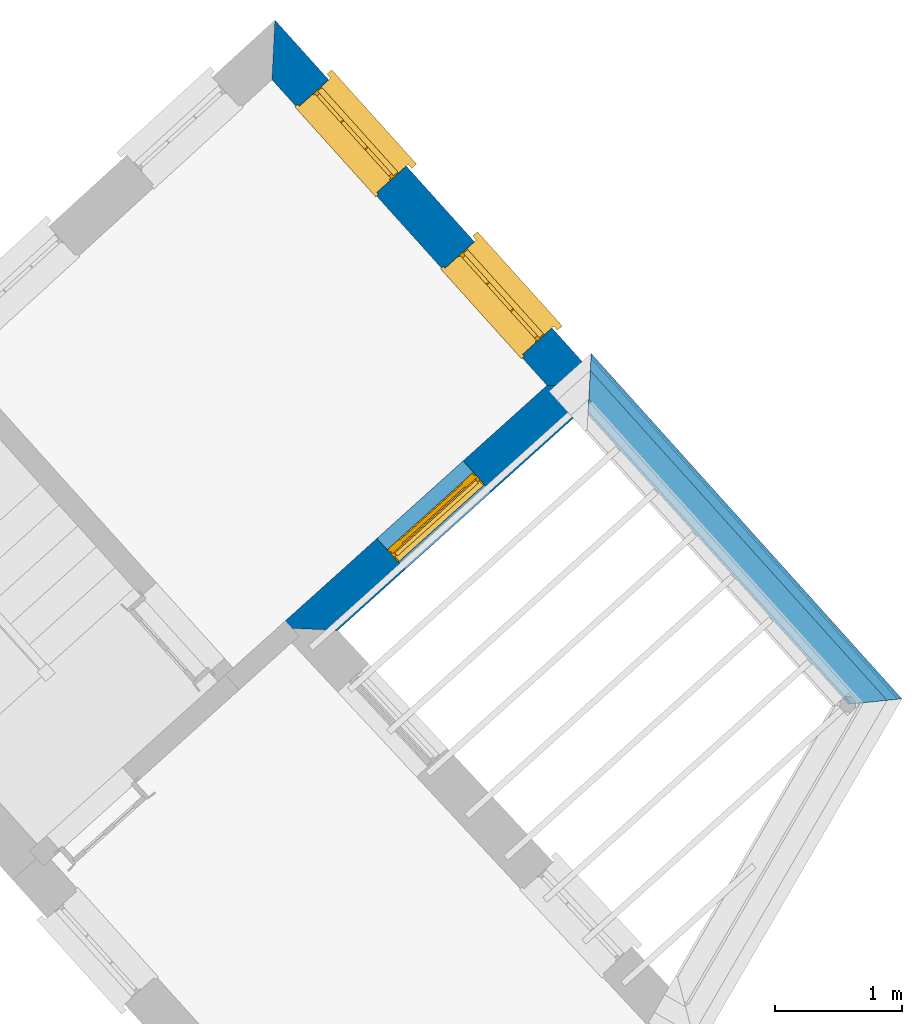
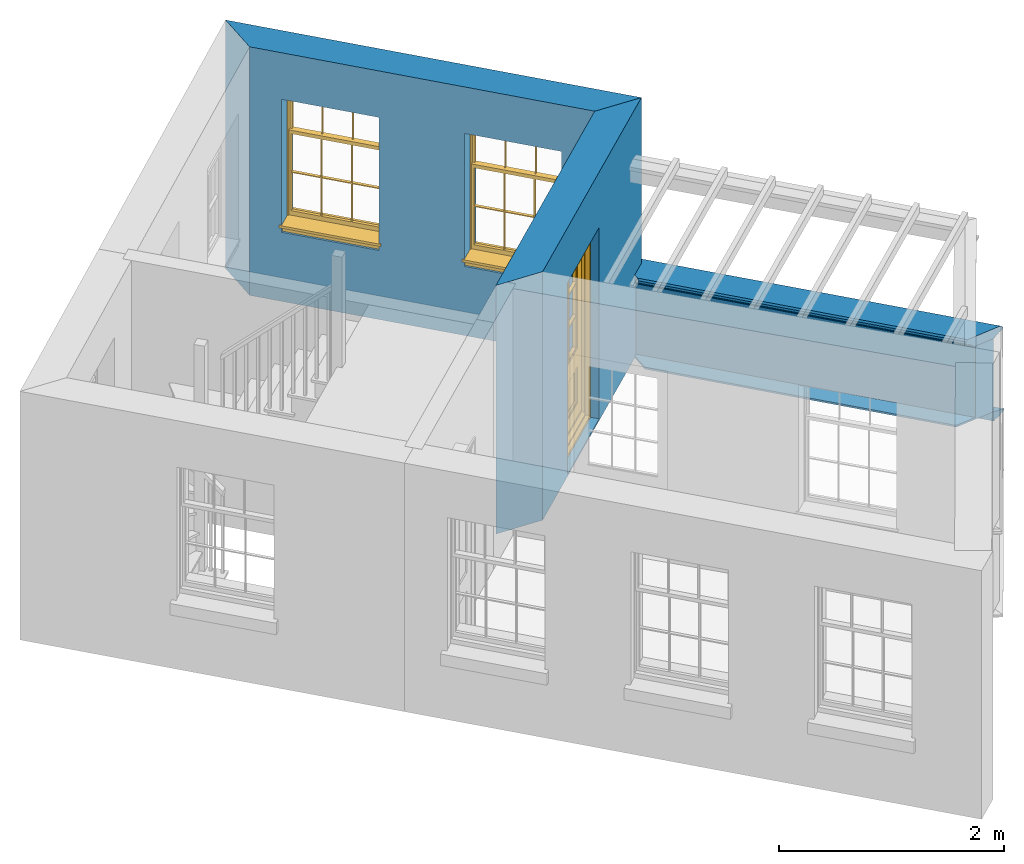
# One storey, part 5 of 7: 5 walls, 2 windows, 1 door, 3 openings.
"""IFC4 building model written with IfcOpenShell, lengths in metres."""

from ifc_helpers import new_model, si_unit, frame, origin, origin_with_axes, place, context, subcontext, project, spatial, polyline, outline, extrude, clip, halfspace, faceted_brep, source, transform, mapped, material, layer, layer_set, layer_usage, material_profile, profile_set, profile_usage, type_object, type_shapes, element, fill, save


model = new_model("IFC4")

# Units and contexts
model_context = context("Model", 3, world=origin_with_axes())
body_context = subcontext(model_context, "Body", "Model", "MODEL_VIEW")
ifc_project = project(units=[si_unit("PLANEANGLEUNIT", "RADIAN"), si_unit("MASSUNIT", "GRAM", prefix="KILO"), si_unit("FORCEUNIT", "NEWTON", prefix="KILO"), si_unit("LENGTHUNIT", "METRE"), si_unit("AREAUNIT", "SQUARE_METRE"), si_unit("VOLUMEUNIT", "CUBIC_METRE")], contexts=[model_context, model_context])

# Sites, building, storey
site_1_placement = place(None, origin_with_axes())
site_1 = spatial("IfcSite", under=ifc_project, at=site_1_placement, Name="Tamar")
site_2_placement = place(site_1_placement, origin_with_axes())
site_2 = spatial("IfcSite", under=site_1, at=site_2_placement, Name="Site plot-7", CompositionType="ELEMENT")
building_placement = place(None, origin_with_axes())
building = spatial("IfcBuilding", under=site_2, at=building_placement, Name="Building plot-7", CompositionType="ELEMENT")
storey_placement = place(None, frame((0.0, 0.0, 29.15), z_axis=(0.0, 0.0, 1.0), x_axis=(1.0, 0.0, 0.0)))
storey = spatial("IfcBuildingStorey", under=building, at=storey_placement, Name="plot-7 1", CompositionType="ELEMENT", Elevation=29.15)

# Wall, opening, door
ifc_material = material(Name="Masonry")
ifc_layer = layer(ifc_material, 0.33, ventilated=False)
ifc_layer_set = layer_set([ifc_layer], Name="exterior_0.08_0.25")
ifc_layer_usage = layer_usage(ifc_layer_set, "AXIS2", "POSITIVE", -0.25)
wall_type_1 = type_object("IfcWallType", Name="exterior_0.08_0.25", PredefinedType="SOLIDWALL", material=ifc_layer_set)
wall_1_placement = place(storey_placement, frame((243.7211711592, 286.45136074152, 0.0), z_axis=(0.0, 0.0, 1.0), x_axis=(0.743394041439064, 0.668853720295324, 0.0)))
wall_1 = element("IfcWall", 1, at=wall_1_placement, inside=storey, type_object=wall_type_1, material=ifc_layer_usage, Name="exterior", context=body_context, shape_type="SweptSolid", body=[
    extrude(outline(polyline([(-0.0813369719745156, 0.0800000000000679), (0.254178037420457, -0.250000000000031), (3.09300082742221, -0.250000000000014), (2.76300082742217, 0.0800000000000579), (-0.0813369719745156, 0.0800000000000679)])), origin_with_axes(), (0.0, 0.0, 1.0), 2.7),
])
opening_1_placement = place(wall_1_placement, frame((0.966500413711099, 0.0, 0.0199999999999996)))
opening_1 = element("IfcOpeningElement", 2, at=opening_1_placement, cuts=wall_1, Name="My Opening", ObjectType="Opening", context=body_context, shape_type="SweptSolid", body=[
    extrude(outline(polyline([(0.0, -0.270000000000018), (0.909999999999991, -0.270000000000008), (0.910000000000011, 1.1), (1.94289029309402e-14, 1.09999999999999), (0.0, -0.270000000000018)])), origin_with_axes(), (0.0, 0.0, 1.0), 2.08),
])
door_type = type_object("IfcDoorType", Name="door_panelled", OperationType="SINGLE_SWING_LEFT", PredefinedType="NOTDEFINED")
shared_shape_1 = source(origin(), body_context, "Body", "Brep", [
    faceted_brep([(0.545, 0.195, 0.265), (0.745, 0.195, 0.265), (0.745, 0.2, 0.265), (0.545, 0.2, 0.265), (0.745, 0.2, 0.58), (0.545, 0.2, 0.58), (0.545, 0.195, 0.58), (0.515, 0.19, 0.235), (0.775, 0.19, 0.235), (0.745, 0.195, 0.58), (0.515, 0.19, 0.61), (0.515, 0.185, 0.235), (0.775, 0.185, 0.235), (0.775, 0.19, 0.61), (0.515, 0.185, 0.61), (0.785, 0.185, 0.225), (0.505, 0.185, 0.225), (0.775, 0.185, 0.61), (0.505, 0.185, 0.62), (0.785, 0.185, 0.62), (0.505, 0.18, 0.225), (0.785, 0.18, 0.225), (0.505, 0.18, 0.62), (0.785, 0.18, 0.62), (0.883, 0.18, 0.075), (0.898, 0.18, 0.075), (0.405, 0.18, 0.62), (0.405, 0.18, 0.225), (0.027, 0.18, 0.075), (0.785, 0.18, 0.82), (0.125, 0.18, 0.82), (0.405, 0.185, 0.62), (0.405, 0.185, 0.225), (0.898, 0.18, 2.068), (0.027, 0.17, 0.075), (0.883, 0.17, 0.075), (0.125, 0.18, 0.225), (0.012, 0.18, 0.075), (0.785, 0.19, 0.82), (0.125, 0.19, 0.82), (0.125, 0.18, 0.62), (0.125, 0.185, 0.62), (0.395, 0.185, 0.61), (0.395, 0.185, 0.235), (0.125, 0.185, 0.225), (0.785, 0.18, 1.895), (0.027, 0.14, 0.045), (0.883, 0.14, 0.045), (0.558333, 0.19, 0.83), (0.351667, 0.19, 0.83), (0.125, 0.18, 1.895), (0.125, 0.19, 1.895), (0.785, 0.19, 1.895), (0.012, 0.18, 2.068), (0.135, 0.185, 0.61), (0.395, 0.19, 0.61), (0.395, 0.19, 0.235), (0.135, 0.185, 0.235), (0.027, 0.14, 0.027), (0.883, 0.14, 0.027), (0.568333, 0.19, 0.83), (0.558333, 0.22, 0.83), (0.351667, 0.22, 0.83), (0.341667, 0.19, 0.83), (0.135, 0.19, 1.185), (0.135, 0.19, 1.53), (0.775, 0.19, 1.53), (0.775, 0.19, 1.185), (0.135, 0.19, 0.61), (0.365, 0.195, 0.58), (0.365, 0.195, 0.265), (0.135, 0.19, 0.235), (0.568333, 0.19, 1.175), (0.558333, 0.19, 1.175), (0.775, 0.19, 0.83), (0.558333, 0.22, 1.175), (0.785, 0.22, 0.82), (0.125, 0.22, 0.82), (0.351667, 0.22, 1.175), (0.351667, 0.19, 1.175), (0.341667, 0.19, 1.175), (0.135, 0.19, 0.83), (0.135, 0.19, 1.175), (0.135, 0.22, 1.185), (0.135, 0.22, 1.53), (0.135, 0.19, 1.54), (0.351667, 0.19, 1.885), (0.558333, 0.19, 1.885), (0.775, 0.22, 1.53), (0.775, 0.22, 1.185), (0.775, 0.19, 1.175), (0.775, 0.19, 1.54), (0.165, 0.195, 0.58), (0.365, 0.2, 0.58), (0.365, 0.2, 0.265), (0.165, 0.195, 0.265), (0.568333, 0.22, 0.83), (0.568333, 0.22, 1.175), (0.568333, 0.19, 1.185), (0.558333, 0.19, 1.185), (0.775, 0.22, 0.83), (0.785, 0.23, 0.82), (0.125, 0.23, 0.82), (0.341667, 0.22, 0.83), (0.341667, 0.22, 1.175), (0.351667, 0.19, 1.185), (0.341667, 0.19, 1.185), (0.135, 0.22, 0.83), (0.341667, 0.22, 1.185), (0.125, 0.22, 1.895), (0.341667, 0.22, 1.53), (0.341667, 0.19, 1.53), (0.135, 0.19, 1.885), (0.341667, 0.19, 1.54), (0.341667, 0.19, 1.885), (0.558333, 0.22, 1.885), (0.351667, 0.22, 1.885), (0.568333, 0.19, 1.885), (0.785, 0.22, 1.895), (0.568333, 0.22, 1.185), (0.568333, 0.19, 1.53), (0.568333, 0.22, 1.53), (0.568333, 0.19, 1.54), (0.775, 0.19, 1.885), (0.165, 0.2, 0.58), (0.165, 0.2, 0.265), (0.775, 0.22, 1.175), (0.558333, 0.19, 1.53), (0.351667, 0.22, 1.185), (0.558333, 0.22, 1.185), (0.505, 0.23, 0.62), (0.405, 0.23, 0.62), (0.125, 0.23, 1.895), (0.785, 0.23, 1.895), (0.351667, 0.19, 1.53), (0.135, 0.22, 1.175), (0.135, 0.22, 1.54), (0.341667, 0.22, 1.54), (0.135, 0.22, 1.885), (0.351667, 0.19, 1.54), (0.558333, 0.22, 1.54), (0.558333, 0.19, 1.54), (0.351667, 0.22, 1.54), (0.775, 0.22, 1.54), (0.568333, 0.22, 1.54), (0.775, 0.22, 1.885), (0.558333, 0.22, 1.53), (0.405, 0.23, 0.225), (0.505, 0.23, 0.225), (0.125, 0.23, 0.62), (0.785, 0.23, 0.62), (0.012, 0.23, 2.068), (0.898, 0.23, 2.068), (0.351667, 0.22, 1.53), (0.341667, 0.22, 1.885), (0.568333, 0.22, 1.885), (0.405, 0.225, 0.225), (0.405, 0.225, 0.62), (0.505, 0.225, 0.62), (0.505, 0.225, 0.225), (0.898, 0.23, 0.027), (0.012, 0.23, 0.027), (0.125, 0.225, 0.62), (0.785, 0.225, 0.62), (0.395, 0.225, 0.235), (0.395, 0.225, 0.61), (0.125, 0.23, 0.225), (0.125, 0.225, 0.225), (0.515, 0.225, 0.61), (0.515, 0.225, 0.235), (0.785, 0.23, 0.225), (0.785, 0.225, 0.225), (0.135, 0.225, 0.61), (0.775, 0.225, 0.61), (0.135, 0.225, 0.235), (0.395, 0.22, 0.235), (0.395, 0.22, 0.61), (0.515, 0.22, 0.61), (0.515, 0.22, 0.235), (0.775, 0.225, 0.235), (0.135, 0.22, 0.61), (0.775, 0.22, 0.61), (0.135, 0.22, 0.235), (0.365, 0.215, 0.265), (0.365, 0.215, 0.58), (0.545, 0.215, 0.58), (0.545, 0.215, 0.265), (0.775, 0.22, 0.235), (0.165, 0.215, 0.58), (0.745, 0.215, 0.58), (0.165, 0.215, 0.265), (0.365, 0.21, 0.58), (0.365, 0.21, 0.265), (0.545, 0.21, 0.58), (0.545, 0.21, 0.265), (0.745, 0.215, 0.265), (0.165, 0.21, 0.58), (0.745, 0.21, 0.58), (0.165, 0.21, 0.265), (0.745, 0.21, 0.265), (0.885, 0.178, 0.025), (0.025, 0.178, 0.025), (0.025, 0.15, 0.025), (0.885, 0.15, 0.025), (0.9, 0.23, 0.025), (0.01, 0.23, 0.025), (0.9, 0.178, 0.025), (0.91, 0.23, 0.0), (0.0, 0.23, 0.0), (0.01, 0.178, 0.025), (0.9, 0.178, 2.07), (0.9, 0.23, 2.07), (0.885, 0.178, 2.055), (0.91, 0.23, 2.08), (0.01, 0.23, 2.07), (0.0, 0.23, 2.08), (0.01, 0.178, 2.07), (0.025, 0.178, 2.055), (0.0, 0.1, 2.08), (0.91, 0.1, 2.08), (0.01, 0.1, 2.07), (0.9, 0.1, 2.07), (0.01, 0.15, 2.07), (0.9, 0.15, 2.07), (0.0, 0.1, 0.0), (0.91, 0.1, 0.0), (0.01, 0.1, 0.025), (0.9, 0.1, 0.025), (0.01, 0.15, 0.025), (0.025, 0.15, 2.055), (0.9, 0.15, 0.025), (0.885, 0.15, 2.055), (0.898, 0.18, 0.027), (0.012, 0.18, 0.027), (0.883, 0.18, 0.027), (0.027, 0.18, 0.027)], [[[0, 1, 2, 3]], [[2, 4, 5, 3]], [[0, 3, 5, 6]], [[1, 0, 7, 8]], [[9, 4, 2, 1]], [[9, 6, 5, 4]], [[0, 6, 10, 7]], [[8, 7, 11, 12]], [[8, 13, 9, 1]], [[13, 10, 6, 9]], [[7, 10, 14, 11]], [[15, 12, 11, 16]], [[12, 17, 13, 8]], [[17, 14, 10, 13]], [[18, 16, 11, 14]], [[15, 19, 17, 12]], [[15, 16, 20, 21]], [[14, 17, 19, 18]], [[16, 18, 22, 20]], [[21, 23, 19, 15]], [[24, 25, 21, 20]], [[23, 22, 18, 19]], [[20, 22, 26, 27]], [[23, 21, 25]], [[28, 24, 20, 27]], [[22, 23, 29]], [[29, 30, 26, 22]], [[27, 26, 31, 32]], [[23, 25, 33, 29]], [[34, 35, 24, 28]], [[28, 27, 36, 37]], [[38, 39, 30, 29]], [[26, 30, 40]], [[26, 40, 41, 31]], [[42, 43, 32, 31]], [[32, 44, 36, 27]], [[33, 45, 29]], [[46, 47, 35, 34]], [[36, 40, 37]], [[39, 38, 48, 49]], [[50, 30, 39, 51]], [[29, 45, 52, 38]], [[53, 37, 40, 30]], [[44, 41, 40, 36]], [[31, 41, 54, 42]], [[43, 42, 55, 56]], [[57, 44, 32, 43]], [[50, 45, 33, 53]], [[47, 46, 58, 59]], [[60, 48, 38]], [[49, 48, 61, 62]], [[49, 63, 39]], [[50, 53, 30]], [[51, 39, 64, 65]], [[45, 50, 51, 52]], [[66, 67, 38, 52]], [[57, 54, 41, 44]], [[42, 54, 68, 55]], [[56, 55, 69, 70]], [[56, 71, 57, 43]], [[60, 72, 73, 48]], [[60, 38, 74]], [[48, 73, 75, 61]], [[76, 77, 62, 61]], [[62, 78, 79, 49]], [[49, 79, 80, 63]], [[63, 81, 39]], [[82, 64, 39]], [[65, 64, 83, 84]], [[85, 51, 65]], [[52, 51, 86, 87]], [[88, 89, 67, 66]], [[90, 38, 67]], [[91, 66, 52]], [[71, 68, 54, 57]], [[55, 68, 92, 69]], [[69, 93, 94, 70]], [[70, 95, 71, 56]], [[96, 97, 72, 60]], [[73, 72, 98, 99]], [[74, 38, 90]], [[100, 96, 60, 74]], [[75, 73, 79, 78]], [[61, 75, 97, 96]], [[101, 102, 77, 76]], [[77, 103, 62]], [[96, 76, 61]], [[103, 104, 78, 62]], [[80, 79, 105, 106]], [[63, 80, 104, 103]], [[81, 63, 103, 107]], [[81, 82, 39]], [[106, 64, 82, 80]], [[106, 108, 83, 64]], [[84, 83, 77, 109]], [[110, 111, 65, 84]], [[112, 51, 85]], [[113, 85, 65, 111]], [[114, 86, 51]], [[115, 87, 86, 116]], [[117, 52, 87]], [[118, 76, 89, 88]], [[119, 98, 67, 89]], [[120, 121, 88, 66]], [[67, 98, 72, 90]], [[91, 122, 120, 66]], [[91, 52, 123]], [[95, 92, 68, 71]], [[69, 92, 124, 93]], [[94, 93, 124, 125]], [[94, 125, 95, 70]], [[72, 97, 126, 90]], [[127, 99, 98, 120]], [[99, 105, 79, 73]], [[74, 90, 126, 100]], [[96, 100, 76]], [[128, 129, 75, 78]], [[97, 75, 129, 119]], [[130, 131, 102, 101]], [[109, 77, 102, 132]], [[133, 101, 76, 118]], [[77, 107, 103]], [[78, 104, 108, 128]], [[111, 106, 105, 134]], [[104, 80, 82, 135]], [[107, 135, 82, 81]], [[110, 108, 106, 111]], [[104, 135, 83, 108]], [[83, 135, 77]], [[136, 84, 109]], [[110, 84, 136, 137]], [[114, 51, 112]], [[85, 136, 138, 112]], [[113, 137, 136, 85]], [[111, 134, 139, 113]], [[86, 114, 113, 139]], [[140, 141, 87, 115]], [[139, 142, 116, 86]], [[109, 118, 115, 116]], [[117, 123, 52]], [[117, 87, 141, 122]], [[126, 89, 76]], [[143, 118, 88]], [[120, 98, 119, 121]], [[119, 89, 126, 97]], [[144, 143, 88, 121]], [[144, 122, 91, 143]], [[127, 120, 122, 141]], [[143, 91, 123, 145]], [[124, 92, 95, 125]], [[146, 129, 99, 127]], [[99, 129, 128, 105]], [[100, 126, 76]], [[121, 119, 129, 146]], [[147, 131, 130, 148]], [[131, 149, 102]], [[130, 101, 150]], [[102, 151, 132]], [[118, 109, 132, 133]], [[101, 133, 152]], [[107, 77, 135]], [[153, 128, 108, 110]], [[134, 105, 128, 153]], [[109, 138, 136]], [[153, 110, 137, 142]], [[154, 114, 112, 138]], [[137, 113, 114, 154]], [[141, 139, 134, 127]], [[141, 140, 142, 139]], [[144, 140, 115, 155]], [[142, 137, 154, 116]], [[155, 115, 118]], [[116, 154, 109]], [[117, 155, 145, 123]], [[122, 144, 155, 117]], [[143, 145, 118]], [[121, 146, 140, 144]], [[146, 127, 134, 153]], [[156, 157, 131, 147]], [[148, 130, 158, 159]], [[148, 160, 161, 147]], [[157, 162, 149, 131]], [[161, 151, 102, 149]], [[101, 152, 160, 150]], [[163, 158, 130, 150]], [[151, 152, 133, 132]], [[154, 138, 109]], [[142, 140, 146, 153]], [[145, 155, 118]], [[157, 156, 164, 165]], [[147, 166, 167, 156]], [[168, 169, 159, 158]], [[170, 148, 159, 171]], [[148, 170, 160]], [[166, 147, 161]], [[172, 162, 157, 165]], [[166, 149, 162, 167]], [[166, 161, 149]], [[150, 160, 170]], [[163, 173, 168, 158]], [[171, 163, 150, 170]], [[174, 164, 156, 167]], [[175, 176, 165, 164]], [[169, 168, 177, 178]], [[171, 159, 169, 179]], [[167, 162, 172, 174]], [[176, 180, 172, 165]], [[179, 173, 163, 171]], [[181, 177, 168, 173]], [[164, 174, 182, 175]], [[183, 184, 176, 175]], [[178, 177, 185, 186]], [[179, 169, 178, 187]], [[174, 172, 180, 182]], [[184, 188, 180, 176]], [[187, 181, 173, 179]], [[189, 185, 177, 181]], [[175, 182, 190, 183]], [[191, 184, 183, 192]], [[185, 193, 194, 186]], [[187, 178, 186, 195]], [[182, 180, 188, 190]], [[191, 196, 188, 184]], [[195, 189, 181, 187]], [[197, 193, 185, 189]], [[183, 190, 198, 192]], [[198, 196, 191, 192]], [[194, 193, 197, 199]], [[195, 186, 194, 199]], [[188, 196, 198, 190]], [[197, 189, 195, 199]], [[200, 201, 202, 203]], [[201, 200, 204, 205]], [[206, 204, 200]], [[204, 207, 208, 205]], [[209, 201, 205]], [[210, 211, 204, 206]], [[206, 200, 212, 210]], [[211, 213, 207, 204]], [[214, 205, 208, 215]], [[216, 217, 201, 209]], [[205, 214, 216, 209]], [[216, 214, 211, 210]], [[210, 212, 217, 216]], [[214, 215, 213, 211]], [[218, 219, 213, 215]], [[219, 218, 220, 221]], [[221, 220, 222, 223]], [[215, 208, 224, 218]], [[225, 224, 208, 207]], [[224, 226, 220, 218]], [[224, 225, 227, 226]], [[219, 225, 207, 213]], [[228, 222, 220, 226]], [[219, 221, 227, 225]], [[226, 227, 203, 202]], [[202, 229, 222, 228]], [[228, 226, 202]], [[227, 221, 223, 230]], [[230, 203, 227]], [[217, 229, 202, 201]], [[231, 223, 222, 229]], [[230, 223, 231, 203]], [[231, 229, 217, 212]], [[212, 200, 203, 231]], [[33, 152, 151, 53]], [[25, 160, 152, 33]], [[161, 37, 53, 151]], [[232, 160, 25]], [[161, 233, 37]], [[160, 232, 234]], [[24, 234, 232, 25]], [[233, 161, 235]], [[37, 233, 235, 28]], [[161, 160, 234, 235]], [[35, 47, 234, 24]], [[28, 235, 46, 34]], [[58, 235, 234, 59]], [[59, 234, 47]], [[58, 46, 235]]]),
])
type_shapes(door_type, [shared_shape_1])
door_placement = place(storey_placement, frame((244.620252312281, 286.897091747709, 0.0199999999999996), z_axis=(0.0, 0.0, 1.0), x_axis=(0.676488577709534, 0.608656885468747, 0.0)))
door = element("IfcDoor", 3, at=door_placement, inside=storey, type_object=door_type, Name="bedroom outside door", OverallHeight=2.08, OverallWidth=0.91, context=body_context, shape_type="MappedRepresentation", body=[
    mapped(shared_shape_1, transform((0.0, 0.0, 0.0), scale=1.0)),
])
fill(opening_1, door)

# Wall, openings, windows
wall_2_placement = place(storey_placement, frame((245.834641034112, 288.352912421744, 0.0), z_axis=(0.0, 0.0, 1.0), x_axis=(-0.668853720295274, 0.743394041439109, 0.0)))
wall_2 = element("IfcWall", 4, at=wall_2_placement, inside=storey, type_object=wall_type_1, material=ifc_layer_usage, Name="exterior", context=body_context, shape_type="SweptSolid", body=[
    extrude(outline(polyline([(0.0800000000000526, 0.0800000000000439), (-0.249999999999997, -0.250000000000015), (3.64121916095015, -0.250000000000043), (3.30886085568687, 0.0799999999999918), (0.0800000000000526, 0.0800000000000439)])), origin_with_axes(), (0.0, 0.0, 1.0), 2.7),
])
opening_2_placement = place(wall_2_placement, frame((0.38943256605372, 0.0, 0.75)))
opening_2 = element("IfcOpeningElement", 5, at=opening_2_placement, cuts=wall_2, Name="My Opening", ObjectType="Opening", context=body_context, shape_type="SweptSolid", body=[
    extrude(outline(polyline([(0.0, -0.269999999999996), (0.909999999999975, -0.269999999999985), (0.910000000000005, 1.09999999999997), (3.0142555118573e-14, 1.09999999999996), (0.0, -0.269999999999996)])), origin_with_axes(), (0.0, 0.0, 1.0), 1.445),
])
opening_3_placement = place(wall_2_placement, frame((2.09943256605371, 0.0, 0.75)))
opening_3 = element("IfcOpeningElement", 6, at=opening_3_placement, cuts=wall_2, Name="My Opening", ObjectType="Opening", context=body_context, shape_type="SweptSolid", body=[
    extrude(outline(polyline([(0.0, -0.269999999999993), (0.909999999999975, -0.269999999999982), (0.910000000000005, 1.09999999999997), (3.01980662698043e-14, 1.09999999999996), (0.0, -0.269999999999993)])), origin_with_axes(), (0.0, 0.0, 1.0), 1.445),
])
window_type = type_object("IfcWindowType", Name="sash_shorter", PartitioningType="DOUBLE_PANEL_HORIZONTAL", PredefinedType="NOTDEFINED")
shared_shape_2 = source(origin(), body_context, "Body", "Brep", [
    faceted_brep([(0.876875, 0.145, 0.999097), (0.876875, 0.145, 1.411875), (0.9, 0.145, 1.435), (0.033125, 0.145, 1.411875), (0.033125, 0.145, 0.999097), (0.01, 0.145, 1.435), (0.033125, 0.115, 1.411875), (0.01, 0.115, 1.435), (0.033125, 0.115, 0.999097), (0.876875, 0.115, 1.411875), (0.876875, 0.115, 0.999097), (0.9, 0.115, 1.435), (0.033125, 0.145, 0.960972), (0.01, 0.145, 0.960972), (0.033125, 0.145, 0.548195), (0.876875, 0.145, 0.960972), (0.876875, 0.145, 0.548195), (0.9, 0.145, 0.960972), (0.876875, 0.145, 0.538195), (0.876875, 0.145, 0.125417), (0.9, 0.145, 0.077167), (0.033125, 0.145, 0.125417), (0.033125, 0.145, 0.538195), (0.01, 0.145, 0.077167), (0.9, 0.115, 0.960972), (0.01, 0.115, 0.960972), (-0.0425, 0.0, 0.01), (-0.0425, -0.05, 0.001667), (0.0, 0.0, 0.01), (0.9525, 0.0, 0.01), (0.91, 0.0, 0.01), (0.9525, -0.05, 0.001667), (-0.02, 0.33, 0.077167), (0.0, 0.33, 0.077167), (-0.02, 0.36, 0.077167), (0.0, 0.19, 0.077167), (0.01, 0.19, 0.077167), (0.91, 0.19, 0.077167), (0.91, 0.33, 0.077167), (0.9, 0.19, 0.077167), (0.93, 0.33, 0.077167), (0.93, 0.36, 0.077167), (0.01, 0.145, 0.999097), (0.01, 0.175, 0.999097), (0.9, 0.145, 0.999097), (0.9, 0.175, 0.999097), (0.876875, 0.175, 0.125417), (0.876875, 0.175, 0.538195), (0.9, 0.175, 0.077167), (0.876875, 0.175, 0.548195), (0.876875, 0.175, 0.960972), (0.033125, 0.175, 0.125417), (0.01, 0.175, 0.077167), (0.033125, 0.175, 0.538195), (0.033125, 0.175, 0.960972), (0.033125, 0.175, 0.548195), (-0.02, 0.33, 0.052167), (-0.02, 0.36, 0.052167), (0.93, 0.36, 0.052167), (0.93, 0.33, 0.052167), (0.91, 0.33, 0.052167), (0.0, 0.33, 0.052167), (0.91, 0.1, 0.026667), (0.0, 0.1, 0.026667), (-0.0425, -0.05, -0.123333), (0.9525, -0.05, -0.123333), (-0.0425, 0.0, -0.123333), (0.9525, 0.0, -0.123333), (0.01, 0.19, 1.435), (0.9, 0.19, 1.435), (0.0, 0.19, 1.445), (0.91, 0.19, 1.445), (0.01, 0.1, 0.077167), (0.9, 0.1, 0.077167), (0.592292, 0.145, 0.125417), (0.592292, 0.175, 0.125417), (0.317708, 0.175, 0.125417), (0.317708, 0.145, 0.125417), (0.592292, 0.145, 0.548195), (0.317708, 0.145, 0.548195), (0.317708, 0.145, 0.538195), (0.592292, 0.145, 0.538195), (0.592292, 0.175, 0.548195), (0.317708, 0.175, 0.548195), (0.602292, 0.175, 0.548195), (0.602292, 0.145, 0.548195), (0.317708, 0.175, 0.538195), (0.307708, 0.175, 0.125417), (0.307708, 0.175, 0.538195), (0.602292, 0.175, 0.538195), (0.602292, 0.175, 0.125417), (0.592292, 0.175, 0.538195), (0.307708, 0.175, 0.548195), (0.317708, 0.175, 0.960972), (0.307708, 0.175, 0.960972), (0.602292, 0.175, 0.960972), (0.592292, 0.175, 0.960972), (0.307708, 0.145, 0.538195), (0.307708, 0.145, 0.125417), (0.307708, 0.145, 0.548195), (0.307708, 0.145, 0.960972), (0.592292, 0.145, 0.960972), (0.317708, 0.145, 0.960972), (0.602292, 0.145, 0.960972), (0.602292, 0.145, 0.538195), (0.602292, 0.145, 0.125417), (0.317708, 0.115, 1.411875), (0.307708, 0.115, 1.411875), (0.307708, 0.115, 0.999097), (0.317708, 0.115, 0.999097), (0.602292, 0.115, 1.411875), (0.592292, 0.115, 1.411875), (0.592292, 0.115, 0.999097), (0.602292, 0.115, 0.999097), (0.317708, 0.145, 0.999097), (0.307708, 0.145, 0.999097), (0.307708, 0.145, 1.411875), (0.317708, 0.145, 1.411875), (0.602292, 0.145, 0.999097), (0.592292, 0.145, 0.999097), (0.592292, 0.145, 1.411875), (0.602292, 0.145, 1.411875), (0.91, 0.1, 1.445), (0.9, 0.1, 1.435), (0.01, 0.1, 1.435), (0.0, 0.1, 1.445), (0.91, 0.0, 0.0), (0.0, 0.0, 0.0), (0.91, 0.33, 0.0), (0.0, 0.33, 0.0)], [[[0, 1, 2]], [[3, 4, 5]], [[6, 7, 8]], [[9, 10, 11]], [[12, 13, 14]], [[15, 16, 17]], [[18, 19, 20]], [[21, 22, 23]], [[24, 15, 17]], [[13, 12, 25]], [[26, 27, 28]], [[29, 30, 31]], [[32, 33, 34]], [[35, 36, 33]], [[37, 38, 39]], [[40, 41, 38]], [[42, 4, 43]], [[44, 45, 0]], [[46, 47, 48]], [[49, 50, 45]], [[51, 52, 53]], [[54, 55, 43]], [[38, 33, 36, 39]], [[41, 34, 33, 38]], [[56, 32, 34, 57]], [[57, 34, 41, 58]], [[58, 41, 40, 59]], [[57, 58, 60, 61]], [[52, 48, 39, 36]], [[62, 63, 28, 30]], [[27, 31, 30, 28]], [[27, 64, 65, 31]], [[66, 67, 65, 64]], [[2, 5, 68, 69]], [[68, 70, 71, 69]], [[20, 23, 72, 73]], [[73, 72, 63, 62]], [[74, 75, 76, 77]], [[78, 79, 80, 81]], [[78, 82, 83, 79]], [[16, 49, 84, 85]], [[86, 76, 87, 88]], [[89, 90, 75, 91]], [[92, 88, 53, 55]], [[82, 91, 86, 83]], [[93, 83, 92, 94]], [[95, 84, 82, 96]], [[89, 84, 49, 47]], [[97, 88, 87, 98]], [[22, 53, 88, 97]], [[81, 91, 75, 74]], [[80, 86, 91, 81]], [[77, 76, 86, 80]], [[99, 92, 55, 14]], [[100, 94, 92, 99]], [[101, 96, 82, 78]], [[79, 83, 93, 102]], [[85, 84, 95, 103]], [[104, 89, 47, 18]], [[105, 90, 89, 104]], [[104, 18, 16, 85]], [[80, 97, 98, 77]], [[104, 81, 74, 105]], [[103, 101, 78, 85]], [[99, 14, 22, 97]], [[102, 100, 99, 79]], [[106, 107, 108, 109]], [[110, 111, 112, 113]], [[114, 115, 116, 117]], [[118, 119, 120, 121]], [[107, 116, 115, 108]], [[111, 120, 119, 112]], [[109, 114, 117, 106]], [[113, 118, 121, 110]], [[85, 78, 81, 104]], [[84, 89, 91, 82]], [[83, 86, 88, 92]], [[79, 99, 97, 80]], [[109, 112, 119, 114]], [[102, 93, 96, 101]], [[106, 117, 120, 111]], [[98, 87, 51, 21]], [[6, 3, 116, 107]], [[110, 121, 1, 9]], [[19, 46, 90, 105]], [[26, 66, 64, 27]], [[29, 31, 65, 67]], [[25, 24, 112, 109]], [[11, 7, 106, 111]], [[75, 48, 52, 76]], [[43, 45, 96, 93]], [[45, 43, 114, 119]], [[5, 2, 120, 117]], [[24, 25, 102, 101]], [[42, 5, 4]], [[2, 44, 0]], [[49, 45, 48, 47]], [[52, 43, 55, 53]], [[14, 13, 23, 22]], [[20, 17, 16, 18]], [[24, 11, 10]], [[25, 8, 7]], [[8, 4, 3, 6]], [[9, 1, 0, 10]], [[15, 50, 49, 16]], [[18, 47, 46, 19]], [[21, 51, 53, 22]], [[14, 55, 54, 12]], [[44, 2, 69, 45]], [[68, 5, 42, 43]], [[36, 35, 70, 68]], [[39, 69, 71, 37]], [[62, 122, 123, 73]], [[63, 72, 124, 125]], [[8, 108, 115, 4]], [[113, 10, 0, 118]], [[94, 100, 12, 54]], [[17, 20, 73, 24]], [[72, 23, 13, 25]], [[52, 36, 68, 43]], [[69, 39, 48, 45]], [[11, 24, 73, 123]], [[7, 124, 72, 25]], [[23, 77, 98]], [[98, 21, 23]], [[105, 74, 20]], [[20, 19, 105]], [[20, 74, 77, 23]], [[113, 112, 24]], [[24, 10, 113]], [[25, 109, 108]], [[108, 8, 25]], [[110, 9, 11]], [[11, 111, 110]], [[7, 6, 107]], [[107, 106, 7]], [[5, 117, 116]], [[116, 3, 5]], [[121, 120, 2]], [[2, 1, 121]], [[11, 123, 124, 7]], [[122, 125, 124, 123]], [[43, 93, 94]], [[94, 54, 43]], [[96, 45, 95]], [[50, 95, 45]], [[15, 103, 95, 50]], [[48, 75, 90]], [[90, 46, 48]], [[87, 76, 52]], [[52, 51, 87]], [[103, 15, 24]], [[24, 101, 103]], [[100, 102, 25]], [[25, 12, 100]], [[115, 114, 43]], [[43, 4, 115]], [[118, 0, 45]], [[45, 119, 118]], [[71, 70, 125, 122]], [[70, 35, 63, 125]], [[122, 62, 37, 71]], [[126, 67, 66, 127]], [[60, 58, 59]], [[38, 60, 59, 40]], [[61, 56, 57]], [[32, 56, 61, 33]], [[61, 60, 128, 129]], [[62, 60, 38, 37]], [[126, 128, 60, 62]], [[33, 61, 63, 35]], [[61, 129, 127, 63]], [[128, 126, 127, 129]], [[28, 127, 66, 26]], [[63, 127, 28]], [[29, 67, 126, 30]], [[30, 126, 62]]]),
])
type_shapes(window_type, [shared_shape_2])
window_1_placement = place(storey_placement, frame((245.774884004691, 288.82300477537, 0.75), z_axis=(0.0, 0.0, 1.0), x_axis=(-0.60865688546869, 0.676488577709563, 0.0)))
window_1 = element("IfcWindow", 7, at=window_1_placement, inside=storey, type_object=window_type, Name="bedroom outside window", OverallHeight=1.445, OverallWidth=0.91, context=body_context, shape_type="MappedRepresentation", body=[
    mapped(shared_shape_2, transform((0.0, 0.0, 0.0), scale=1.0)),
])
fill(opening_2, window_1)
window_2_placement = place(storey_placement, frame((244.631144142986, 290.094208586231, 0.75), z_axis=(0.0, 0.0, 1.0), x_axis=(-0.60865688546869, 0.676488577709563, 0.0)))
window_2 = element("IfcWindow", 8, at=window_2_placement, inside=storey, type_object=window_type, Name="bedroom outside window", OverallHeight=1.445, OverallWidth=0.91, context=body_context, shape_type="MappedRepresentation", body=[
    mapped(shared_shape_2, transform((0.0, 0.0, 0.0), scale=1.0)),
])
fill(opening_3, window_2)

# Walls
ifc_material_profile_1 = material_profile(None, outline(polyline([(0.25, 0.0), (0.25, 0.795), (0.09, 0.795), (0.09, 0.02), (-0.08, 0.02), (-0.08, 0.0), (0.25, 0.0)])))
ifc_profile_set_1 = profile_set([ifc_material_profile_1])
ifc_profile_usage_1 = profile_usage(ifc_profile_set_1)
wall_type_2 = type_object("IfcWallType", Name="parapet_0", PredefinedType="PARAPET", material=ifc_profile_set_1)
wall_3_placement = place(storey_placement, frame((245.373131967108, 288.865854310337, 0.0), z_axis=(0.668853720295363, -0.743394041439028, 0.0), x_axis=(0.743394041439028, 0.668853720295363, 0.0)))
element("IfcWall", 9, at=wall_3_placement, inside=storey, type_object=wall_type_2, material=ifc_profile_usage_1, Name="parapet_0", context=body_context, shape_type="Clipping", body=[
    clip(clip(extrude(outline(polyline([(0.25, 0.0), (0.25, 0.795), (0.09, 0.795), (0.09, 0.02), (-0.08, 0.02), (-0.08, 0.0), (0.25, 0.0)])), origin_with_axes(), (0.0, 0.0, 1.0), 5.05114548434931), halfspace(frame((0.0, 0.0, 4.05114548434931), z_axis=(0.588596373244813, 0.0, -0.808427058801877), x_axis=(0.0, 1.0, 0.0)), True)), halfspace(frame((0.0, 0.0, 1.0), z_axis=(-0.707106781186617, 0.0, -0.707106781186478), x_axis=(0.0, 1.0, 0.0)), False)),
])
ifc_material_profile_2 = material_profile(None, outline(polyline([(0.265, 0.795), (0.268, 0.807), (0.274, 0.816), (0.283, 0.822), (0.295, 0.825), (0.295, 0.84), (0.305, 0.84), (0.317, 0.842), (0.326, 0.849), (0.333, 0.858), (0.335, 0.87), (0.333, 0.882), (0.326, 0.891), (0.317, 0.898), (0.305, 0.9), (0.035, 0.9), (0.023, 0.898), (0.014, 0.891), (0.007, 0.882), (0.005, 0.87), (0.007, 0.858), (0.014, 0.849), (0.023, 0.842), (0.035, 0.84), (0.045, 0.84), (0.045, 0.825), (0.057, 0.822), (0.066, 0.816), (0.072, 0.807), (0.075, 0.795), (0.265, 0.795)])))
ifc_profile_set_2 = profile_set([ifc_material_profile_2])
ifc_profile_usage_2 = profile_usage(ifc_profile_set_2)
wall_type_3 = type_object("IfcWallType", Name="parapet_1", PredefinedType="PARAPET", material=ifc_profile_set_2)
wall_4_placement = place(storey_placement, frame((245.373131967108, 288.865854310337, 0.0), z_axis=(0.668853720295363, -0.743394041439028, 0.0), x_axis=(0.743394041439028, 0.668853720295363, 0.0)))
element("IfcWall", 10, at=wall_4_placement, inside=storey, type_object=wall_type_3, material=ifc_profile_usage_2, Name="parapet_1", context=body_context, shape_type="Clipping", body=[
    clip(clip(extrude(outline(polyline([(0.265, 0.795), (0.268, 0.807), (0.274, 0.816), (0.283, 0.822), (0.295, 0.825), (0.295, 0.84), (0.305, 0.84), (0.317, 0.842), (0.326, 0.849), (0.333, 0.858), (0.335, 0.87), (0.333, 0.882), (0.326, 0.891), (0.317, 0.898), (0.305, 0.9), (0.035, 0.9), (0.023, 0.898), (0.014, 0.891), (0.007, 0.882), (0.005, 0.87), (0.007, 0.858), (0.014, 0.849), (0.023, 0.842), (0.035, 0.84), (0.045, 0.84), (0.045, 0.825), (0.057, 0.822), (0.066, 0.816), (0.072, 0.807), (0.075, 0.795), (0.265, 0.795)])), origin_with_axes(), (0.0, 0.0, 1.0), 5.05114548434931), halfspace(frame((0.0, 0.0, 4.05114548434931), z_axis=(0.588596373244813, 0.0, -0.808427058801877), x_axis=(0.0, 1.0, 0.0)), True)), halfspace(frame((0.0, 0.0, 1.0), z_axis=(-0.707106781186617, 0.0, -0.707106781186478), x_axis=(0.0, 1.0, 0.0)), False)),
])
ifc_material_profile_3 = material_profile(None, outline(polyline([(0.25, -0.1), (0.265, -0.1), (0.265, -0.085), (0.278, -0.084), (0.289, -0.081), (0.301, -0.074), (0.309, -0.065), (0.315, -0.055), (0.324, -0.044), (0.334, -0.038), (0.345, -0.035), (0.345, -0.015), (0.25, 0.0), (0.25, -0.1)])))
ifc_profile_set_3 = profile_set([ifc_material_profile_3])
ifc_profile_usage_3 = profile_usage(ifc_profile_set_3)
wall_type_4 = type_object("IfcWallType", Name="parapet_2", PredefinedType="PARAPET", material=ifc_profile_set_3)
wall_5_placement = place(storey_placement, frame((245.373131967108, 288.865854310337, 0.0), z_axis=(0.668853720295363, -0.743394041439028, 0.0), x_axis=(0.743394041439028, 0.668853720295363, 0.0)))
element("IfcWall", 11, at=wall_5_placement, inside=storey, type_object=wall_type_4, material=ifc_profile_usage_3, Name="parapet_2", context=body_context, shape_type="Clipping", body=[
    clip(clip(extrude(outline(polyline([(0.25, -0.1), (0.265, -0.1), (0.265, -0.085), (0.278, -0.084), (0.289, -0.081), (0.301, -0.074), (0.309, -0.065), (0.315, -0.055), (0.324, -0.044), (0.334, -0.038), (0.345, -0.035), (0.345, -0.015), (0.25, 0.0), (0.25, -0.1)])), origin_with_axes(), (0.0, 0.0, 1.0), 5.05114548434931), halfspace(frame((0.0, 0.0, 4.05114548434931), z_axis=(0.588596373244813, 0.0, -0.808427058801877), x_axis=(0.0, 1.0, 0.0)), True)), halfspace(frame((0.0, 0.0, 1.0), z_axis=(-0.707106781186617, 0.0, -0.707106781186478), x_axis=(0.0, 1.0, 0.0)), False)),
])

save(model, "model.ifc")
